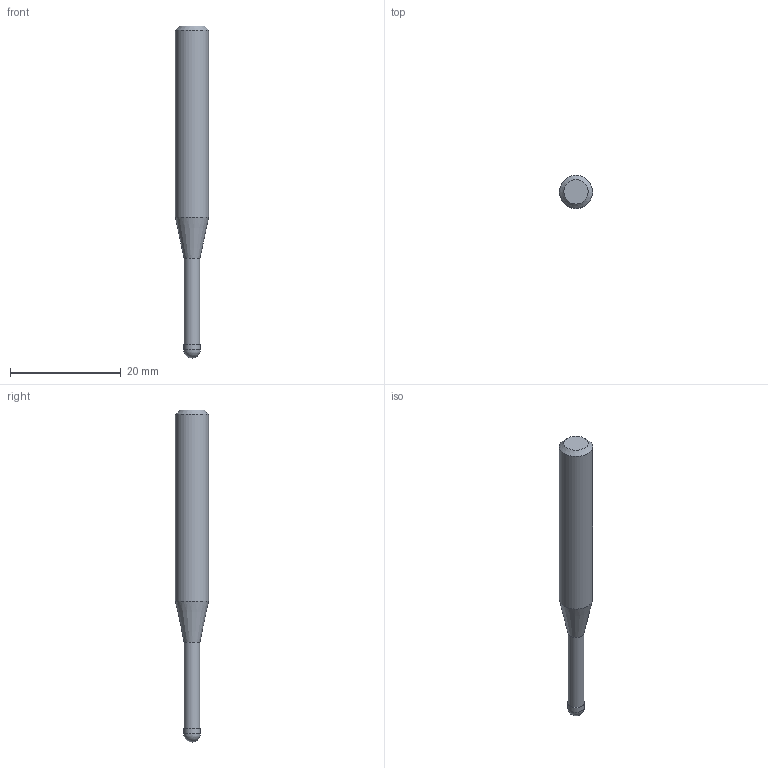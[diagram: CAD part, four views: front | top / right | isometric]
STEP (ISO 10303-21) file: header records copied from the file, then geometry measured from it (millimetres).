
FILE_DESCRIPTION((''),'2;1');
FILE_NAME('C:\Users\nsx150\AppData\Local\Temp\Mastercam 2021\ARV7HD45SN\TEMP.step','2023-06-13T16:38:28',(''),(''),'STEP Write','Mastercam 2021 ... CNC Software, Inc.','');
FILE_SCHEMA(('AUTOMOTIVE_DESIGN'));
Length unit declared in the file: millimetre
Products named in the file (1): None
Bounding box: 6 x 6 x 60 mm (x, y, z)
Volume: 1204.3 mm3; surface area: 951.7 mm2
Topology: 2 solids, 2 shells, 9 faces, 14 edges, 8 vertices
Faces by surface type: plane 3, cylinder 3, cone 2, sphere 1
Full cylindrical faces by diameter (mm): 2.85 x1, 3 x1, 6 x1
Entity records: 211 total; most frequent: DIRECTION 36, CARTESIAN_POINT 25, AXIS2_PLACEMENT_3D 18, ORIENTED_EDGE 14, EDGE_LOOP 14, STYLED_ITEM 12, ADVANCED_FACE 9, FACE_BOUND 8
